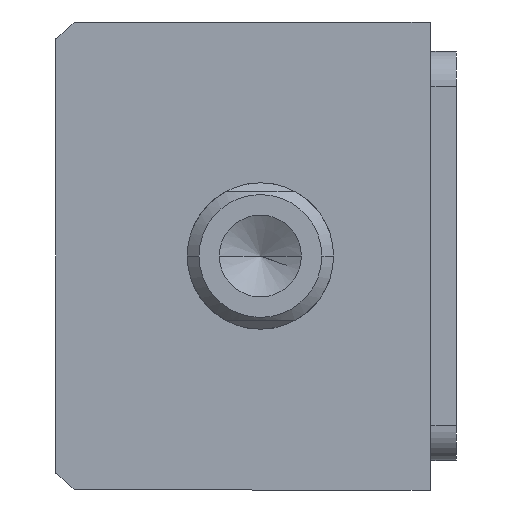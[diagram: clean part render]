
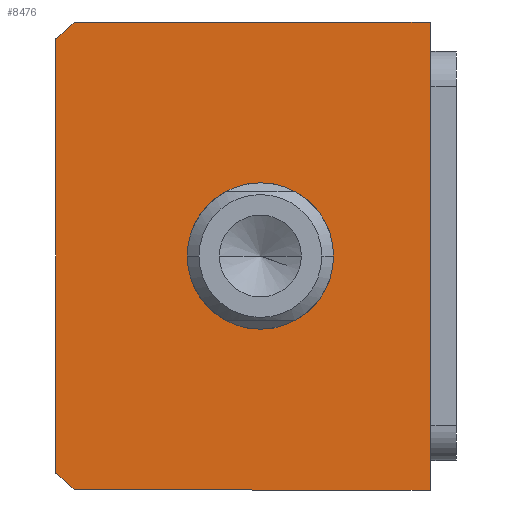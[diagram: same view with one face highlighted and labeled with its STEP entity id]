
A CAD part, front view. The second image highlights one B-rep face of the part: STEP entity #8476.
In plain terms, the highlighted planar face has unit normal (0, -1, 0) as drawn and (0, 0, -1) by its records, which use the part's own axes.
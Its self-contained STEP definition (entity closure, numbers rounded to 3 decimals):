
#82 = CARTESIAN_POINT ( 'NONE',  ( -40., -72.145, 0. ) ) ;
#285 = DIRECTION ( 'NONE',  ( -1., 0., 0. ) ) ;
#691 = EDGE_CURVE ( 'NONE', #3879, #1537, #6981, .T. ) ;
#762 = LINE ( 'NONE', #2862, #2960 ) ;
#821 = CIRCLE ( 'NONE', #4139, 51. ) ;
#861 = ORIENTED_EDGE ( 'NONE', *, *, #691, .T. ) ;
#867 = LINE ( 'NONE', #4567, #3079 ) ;
#984 = VERTEX_POINT ( 'NONE', #9630 ) ;
#1398 = PLANE ( 'NONE',  #9476 ) ;
#1456 = VERTEX_POINT ( 'NONE', #3452 ) ;
#1537 = VERTEX_POINT ( 'NONE', #9206 ) ;
#1857 = EDGE_CURVE ( 'NONE', #5608, #984, #821, .T. ) ;
#1859 = EDGE_LOOP ( 'NONE', ( #10035, #861 ) ) ;
#1876 = AXIS2_PLACEMENT_3D ( 'NONE', #7211, #2316, #8030 ) ;
#1905 = CARTESIAN_POINT ( 'NONE',  ( 40., -72.145, 0. ) ) ;
#2008 = ORIENTED_EDGE ( 'NONE', *, *, #8851, .F. ) ;
#2157 = FACE_BOUND ( 'NONE', #1859, .T. ) ;
#2242 = DIRECTION ( 'NONE',  ( 0., 0., 1. ) ) ;
#2316 = DIRECTION ( 'NONE',  ( 0., 0., 1. ) ) ;
#2731 = EDGE_CURVE ( 'NONE', #984, #10418, #762, .T. ) ;
#2862 = CARTESIAN_POINT ( 'NONE',  ( -40., -75.507, 0. ) ) ;
#2880 = CARTESIAN_POINT ( 'NONE',  ( -40., -11.507, 0. ) ) ;
#2960 = VECTOR ( 'NONE', #7740, 1000. ) ;
#3079 = VECTOR ( 'NONE', #6249, 1000. ) ;
#3125 = VERTEX_POINT ( 'NONE', #2880 ) ;
#3366 = CARTESIAN_POINT ( 'NONE',  ( 0., -40.507, 0. ) ) ;
#3452 = CARTESIAN_POINT ( 'NONE',  ( 40., -11.507, 0. ) ) ;
#3818 = CARTESIAN_POINT ( 'NONE',  ( 0., 0., 0. ) ) ;
#3867 = VERTEX_POINT ( 'NONE', #1905 ) ;
#3879 = VERTEX_POINT ( 'NONE', #6837 ) ;
#4126 = DIRECTION ( 'NONE',  ( 0., 0., 1. ) ) ;
#4139 = AXIS2_PLACEMENT_3D ( 'NONE', #8997, #4126, #9799 ) ;
#4179 = DIRECTION ( 'NONE',  ( 1., 0., 0. ) ) ;
#4442 = ORIENTED_EDGE ( 'NONE', *, *, #4962, .F. ) ;
#4489 = DIRECTION ( 'NONE',  ( 0., -1., 0. ) ) ;
#4567 = CARTESIAN_POINT ( 'NONE',  ( 40., -11.507, 0. ) ) ;
#4833 = CIRCLE ( 'NONE', #1876, 12.5 ) ;
#4948 = AXIS2_PLACEMENT_3D ( 'NONE', #9749, #9811, #9779 ) ;
#4962 = EDGE_CURVE ( 'NONE', #1456, #3125, #8171, .T. ) ;
#5351 = CIRCLE ( 'NONE', #9132, 51. ) ;
#5458 = CARTESIAN_POINT ( 'NONE',  ( 37.094, -75.507, 0. ) ) ;
#5608 = VERTEX_POINT ( 'NONE', #82 ) ;
#6020 = CARTESIAN_POINT ( 'NONE',  ( -40., -11.507, 0. ) ) ;
#6249 = DIRECTION ( 'NONE',  ( 0., 1., 0. ) ) ;
#6622 = ORIENTED_EDGE ( 'NONE', *, *, #9440, .F. ) ;
#6837 = CARTESIAN_POINT ( 'NONE',  ( -12.5, -40.507, 0. ) ) ;
#6981 = CIRCLE ( 'NONE', #4948, 12.5 ) ;
#7040 = CARTESIAN_POINT ( 'NONE',  ( -40., -11.507, 0. ) ) ;
#7211 = CARTESIAN_POINT ( 'NONE',  ( 0., -40.507, 0. ) ) ;
#7525 = LINE ( 'NONE', #7040, #9408 ) ;
#7740 = DIRECTION ( 'NONE',  ( 1., 0., 0. ) ) ;
#7957 = DIRECTION ( 'NONE',  ( 1., 0., 0. ) ) ;
#8030 = DIRECTION ( 'NONE',  ( 1., 0., 0. ) ) ;
#8036 = ORIENTED_EDGE ( 'NONE', *, *, #2731, .F. ) ;
#8111 = EDGE_LOOP ( 'NONE', ( #9037, #6622, #4442, #2008, #8268, #8036 ) ) ;
#8154 = EDGE_CURVE ( 'NONE', #10418, #3867, #5351, .T. ) ;
#8171 = LINE ( 'NONE', #6020, #10309 ) ;
#8268 = ORIENTED_EDGE ( 'NONE', *, *, #8154, .F. ) ;
#8476 = ADVANCED_FACE ( 'NONE', ( #2157, #10554 ), #1398, .F. ) ;
#8851 = EDGE_CURVE ( 'NONE', #3867, #1456, #867, .T. ) ;
#8997 = CARTESIAN_POINT ( 'NONE',  ( 0., -40.507, 0. ) ) ;
#9037 = ORIENTED_EDGE ( 'NONE', *, *, #1857, .F. ) ;
#9054 = DIRECTION ( 'NONE',  ( 0., 0., 1. ) ) ;
#9132 = AXIS2_PLACEMENT_3D ( 'NONE', #3366, #9054, #4179 ) ;
#9206 = CARTESIAN_POINT ( 'NONE',  ( 12.5, -40.507, 0. ) ) ;
#9408 = VECTOR ( 'NONE', #4489, 1000. ) ;
#9440 = EDGE_CURVE ( 'NONE', #3125, #5608, #7525, .T. ) ;
#9476 = AXIS2_PLACEMENT_3D ( 'NONE', #3818, #2242, #7957 ) ;
#9630 = CARTESIAN_POINT ( 'NONE',  ( -37.094, -75.507, 0. ) ) ;
#9749 = CARTESIAN_POINT ( 'NONE',  ( 0., -40.507, 0. ) ) ;
#9779 = DIRECTION ( 'NONE',  ( 1., 0., 0. ) ) ;
#9799 = DIRECTION ( 'NONE',  ( 1., 0., 0. ) ) ;
#9811 = DIRECTION ( 'NONE',  ( 0., 0., 1. ) ) ;
#10035 = ORIENTED_EDGE ( 'NONE', *, *, #10459, .T. ) ;
#10309 = VECTOR ( 'NONE', #285, 1000. ) ;
#10418 = VERTEX_POINT ( 'NONE', #5458 ) ;
#10459 = EDGE_CURVE ( 'NONE', #1537, #3879, #4833, .T. ) ;
#10554 = FACE_OUTER_BOUND ( 'NONE', #8111, .T. ) ;
